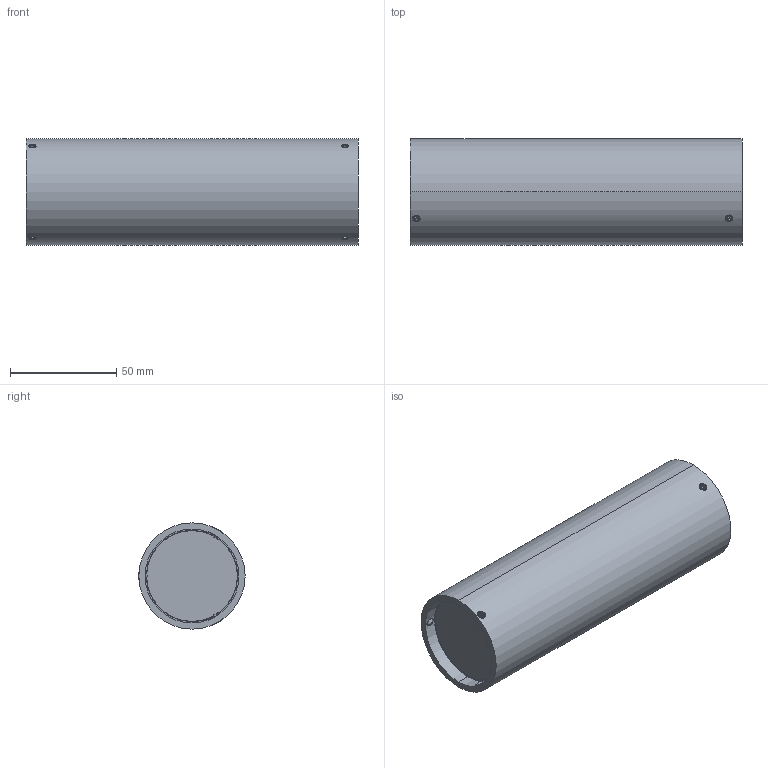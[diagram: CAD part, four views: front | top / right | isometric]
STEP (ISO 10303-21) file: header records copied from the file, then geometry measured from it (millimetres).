
FILE_DESCRIPTION (( 'STEP AP214' ), '1' );
FILE_NAME ('C65-TUBE-200NTi (CATALOG MODEL).STEP', '2026-07-07T18:53:37', ( '' ), ( '' ), 'SwSTEP 2.0', 'SolidWorks 2025', '' );
FILE_SCHEMA (( 'AUTOMOTIVE_DESIGN' ));
Length unit declared in the file: inch
Products named in the file (1): C65-TUBE-200NTi (CATALOG MODEL)
Bounding box: 156.28 x 50 x 50 mm (x, y, z)
Volume: 132739.1 mm3; surface area: 54839 mm2
Topology: 8 solids, 8 shells, 292 faces, 687 edges, 411 vertices
Faces by surface type: plane 94, cylinder 93, cone 87, bspline 18
Entity records: 14939 total; most frequent: CARTESIAN_POINT 8335, ORIENTED_EDGE 1350, DIRECTION 1102, EDGE_CURVE 675, AXIS2_PLACEMENT_3D 431, VERTEX_POINT 411, EDGE_LOOP 318, ADVANCED_FACE 292
